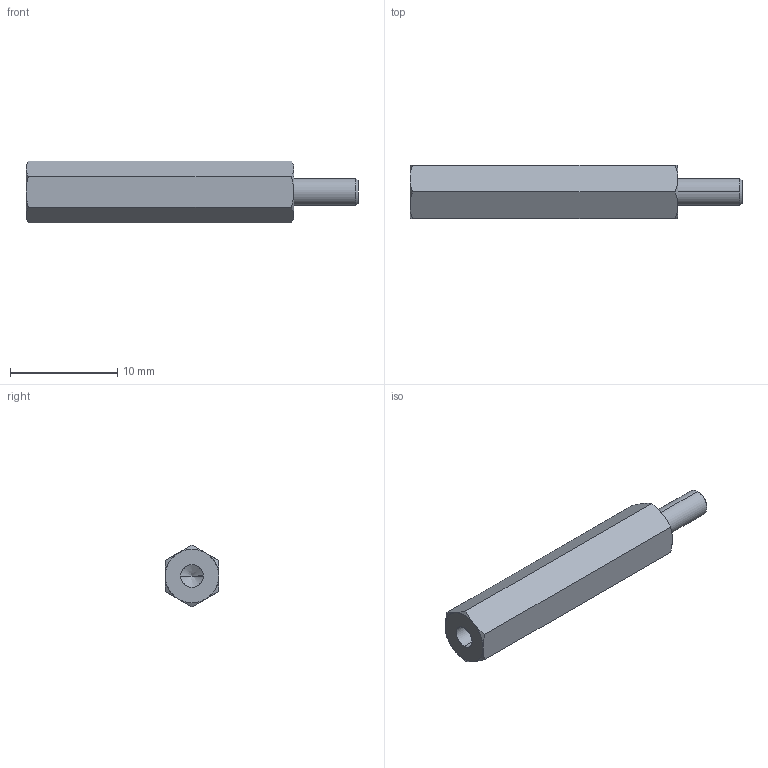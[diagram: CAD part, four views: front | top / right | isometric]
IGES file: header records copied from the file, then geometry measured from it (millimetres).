
Start section: SolidWorks IGES file using analytic representation for surfaces
Global section: file name: C:\Users\render1\Desktop\P0185_IGES\P0185.025-25.igs; native system: SolidWorks 2009; preprocessor: SolidWorks 2009; author: render1; date: 130627.111555; units: millimetre
Bounding box: 31 x 5 x 5.77 mm (x, y, z)
Surface area: 560.6 mm2 (no closed solid volume)
Topology: 0 solids, 0 shells, 29 faces, 324 edges, 322 vertices
Faces by surface type: revolution 20, bspline 9
